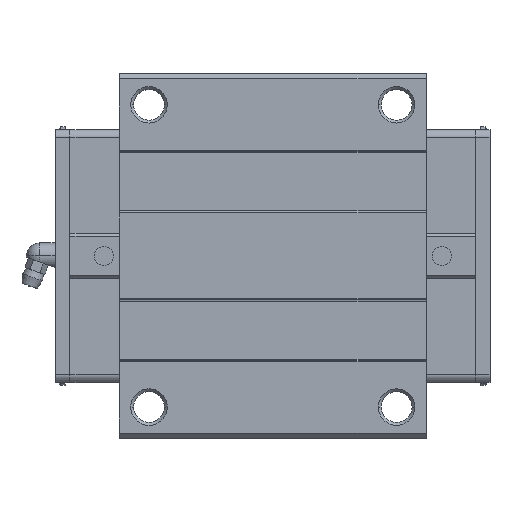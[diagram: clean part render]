
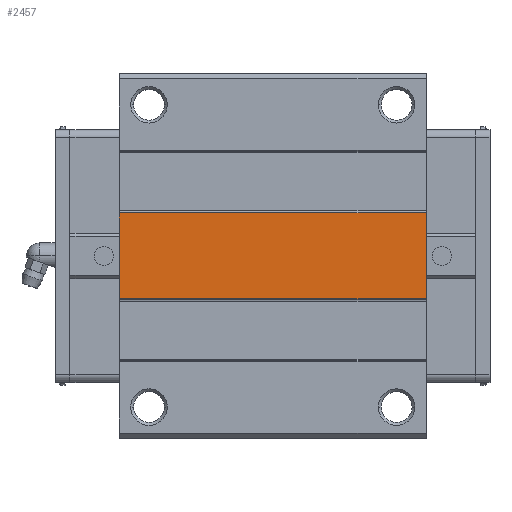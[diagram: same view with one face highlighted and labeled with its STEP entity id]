
A CAD part, top view. The second image highlights one B-rep face of the part: STEP entity #2457.
In plain terms, the highlighted planar face has unit normal (0, 0, 1).
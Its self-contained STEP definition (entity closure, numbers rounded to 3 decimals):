
#2396=CARTESIAN_POINT('POINT157',(142.2,-16.5,
   57.));
#2397=VERTEX_POINT('VERTEX157',#2396);
#2404=CARTESIAN_POINT('POINT158',(24.5,-16.5,
   57.));
#2405=VERTEX_POINT('VERTEX158',#2404);
#2406=CARTESIAN_POINT('POS238',(24.5,-16.5,
   57.));
#2407=DIRECTION('DIR340',(1.,0.,0.));
#2408=VECTOR('VEC136',#2407,1.);
#2409=LINE('STRAIGHT136',#2406,#2408);
#2410=EDGE_CURVE('EDGE231',#2405,#2397,#2409,.T.);
#2427=CARTESIAN_POINT('POINT159',(142.2,16.5,57.));
#2428=VERTEX_POINT('VERTEX159',#2427);
#2429=CARTESIAN_POINT('POS241',(142.2,0.,57.));
#2430=DIRECTION('DIR344',(0.,1.,0.));
#2431=VECTOR('VEC138',#2430,1.);
#2432=LINE('STRAIGHT138',#2429,#2431);
#2433=EDGE_CURVE('EDGE233',#2397,#2428,#2432,.T.);
#2434=ORIENTED_EDGE('COEDGE396',*,*,#2433,.T.);
#2435=CARTESIAN_POINT('POINT160',(24.5,16.5,57.));
#2436=VERTEX_POINT('VERTEX160',#2435);
#2437=CARTESIAN_POINT('POS242',(24.5,16.5,57.));
#2438=DIRECTION('DIR345',(1.,0.,0.));
#2439=VECTOR('VEC139',#2438,1.);
#2440=LINE('STRAIGHT139',#2437,#2439);
#2441=EDGE_CURVE('EDGE234',#2436,#2428,#2440,.T.);
#2442=ORIENTED_EDGE('COEDGE397',*,*,#2441,.F.);
#2443=CARTESIAN_POINT('POS243',(24.5,0.,57.));
#2444=DIRECTION('DIR346',(0.,1.,0.));
#2445=VECTOR('VEC140',#2444,1.);
#2446=LINE('STRAIGHT140',#2443,#2445);
#2447=EDGE_CURVE('EDGE235',#2405,#2436,#2446,.T.);
#2448=ORIENTED_EDGE('COEDGE398',*,*,#2447,.F.);
#2449=ORIENTED_EDGE('COEDGE399',*,*,#2410,.T.);
#2450=EDGE_LOOP('NONE',(#2434,#2442,#2448,#2449));
#2451=FACE_BOUND('LOOP1',#2450,.T.);
#2452=CARTESIAN_POINT('POS244',(24.5,0.,57.));
#2453=DIRECTION('DIR347',(0.,0.,1.));
#2454=DIRECTION('DIR348',(1.,0.,0.));
#2455=AXIS2_PLACEMENT_3D('AXIS104',#2452,#2453,#2454);
#2456=PLANE('PLANE28',#2455);
#2457=ADVANCED_FACE('FACE77',(#2451),#2456,.T.);
